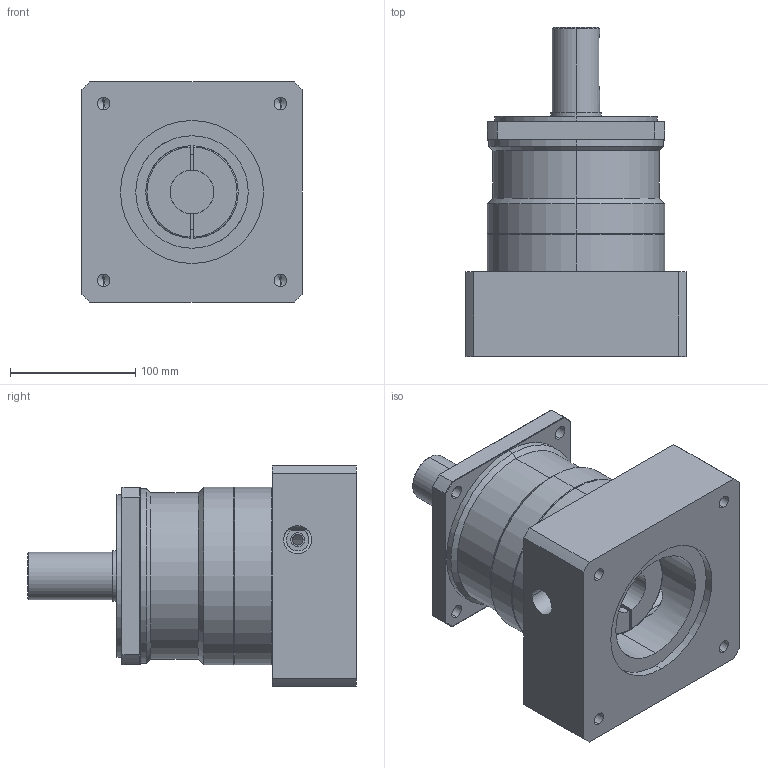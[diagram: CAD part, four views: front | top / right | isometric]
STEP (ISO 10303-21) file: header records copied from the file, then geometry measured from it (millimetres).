
FILE_DESCRIPTION (( 'STEP AP203' ), '1' );
FILE_NAME ('MF150X-L1£r114PCD£r200M12.STEP', '2014-04-16T03:47:56', ( 'KELLY' ), ( '' ), 'SwSTEP 2.0', 'SolidWorks 2012', '' );
FILE_SCHEMA (( 'CONFIG_CONTROL_DESIGN' ));
Length unit declared in the file: millimetre
Products named in the file (1): MF150X-L1｣r114PCD｣r200M12
Bounding box: 176 x 263 x 176 mm (x, y, z)
Volume: 3579307 mm3; surface area: 274303.2 mm2
Topology: 2 solids, 2 shells, 152 faces, 365 edges, 223 vertices
Faces by surface type: cylinder 71, plane 43, cone 32, torus 6
Entity records: 5087 total; most frequent: CARTESIAN_POINT 1432, DIRECTION 781, ORIENTED_EDGE 710, EDGE_CURVE 355, AXIS2_PLACEMENT_3D 313, VERTEX_POINT 223, EDGE_LOOP 188, CIRCLE 160
